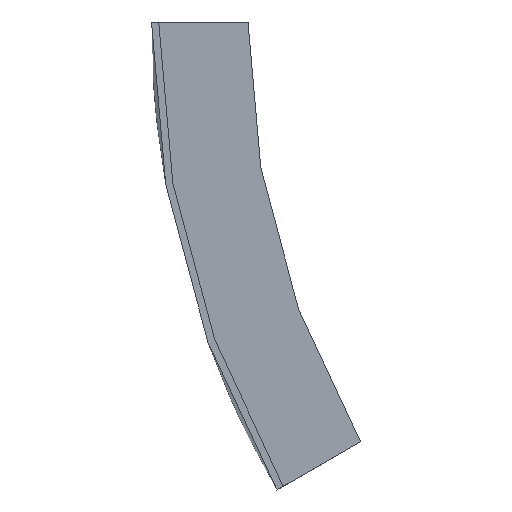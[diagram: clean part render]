
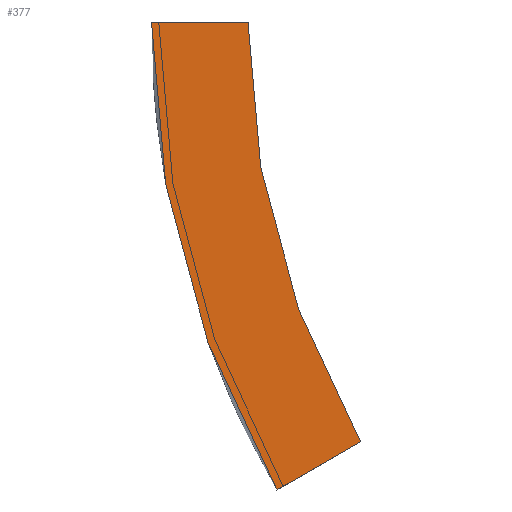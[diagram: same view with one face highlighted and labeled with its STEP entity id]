
A CAD part, left-side view. The second image highlights one B-rep face of the part: STEP entity #377.
In plain terms, the highlighted planar face has unit normal (-1, 0, 0).
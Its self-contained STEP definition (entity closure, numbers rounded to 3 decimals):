
#6 = DIRECTION ( 'NONE',  ( 0., 0., -1. ) ) ;
#10 = VECTOR ( 'NONE', #127, 1000. ) ;
#15 = LINE ( 'NONE', #435, #561 ) ;
#44 = DIRECTION ( 'NONE',  ( 1., 0., 0. ) ) ;
#49 = AXIS2_PLACEMENT_3D ( 'NONE', #372, #560, #6 ) ;
#66 = EDGE_LOOP ( 'NONE', ( #531, #438, #140, #387 ) ) ;
#71 = CARTESIAN_POINT ( 'NONE',  ( -303.5, -20., 0. ) ) ;
#76 = CARTESIAN_POINT ( 'NONE',  ( -303.5, -194., 0. ) ) ;
#78 = DIRECTION ( 'NONE',  ( -1., 0., 0. ) ) ;
#122 = EDGE_CURVE ( 'NONE', #340, #206, #15, .T. ) ;
#123 = CARTESIAN_POINT ( 'NONE',  ( -303.5, -43.312, -87. ) ) ;
#127 = DIRECTION ( 'NONE',  ( 0., 0.866, -0.5 ) ) ;
#138 = DIRECTION ( 'NONE',  ( 0., -1., 0. ) ) ;
#140 = ORIENTED_EDGE ( 'NONE', *, *, #365, .F. ) ;
#154 = DIRECTION ( 'NONE',  ( 0., 0., 1. ) ) ;
#155 = EDGE_CURVE ( 'NONE', #224, #529, #459, .T. ) ;
#206 = VERTEX_POINT ( 'NONE', #71 ) ;
#222 = CARTESIAN_POINT ( 'NONE',  ( -303.5, -194., 0. ) ) ;
#224 = VERTEX_POINT ( 'NONE', #123 ) ;
#226 = CARTESIAN_POINT ( 'NONE',  ( -303.5, -25.991, -97. ) ) ;
#228 = EDGE_CURVE ( 'NONE', #529, #340, #517, .T. ) ;
#261 = CARTESIAN_POINT ( 'NONE',  ( -303.5, -43.312, -87. ) ) ;
#262 = DIRECTION ( 'NONE',  ( 0., 0., 1. ) ) ;
#310 = FACE_OUTER_BOUND ( 'NONE', #66, .T. ) ;
#331 = AXIS2_PLACEMENT_3D ( 'NONE', #76, #78, #262 ) ;
#340 = VERTEX_POINT ( 'NONE', #603 ) ;
#365 = EDGE_CURVE ( 'NONE', #206, #224, #601, .T. ) ;
#372 = CARTESIAN_POINT ( 'NONE',  ( -303.5, -194., 0. ) ) ;
#377 = ADVANCED_FACE ( 'NONE', ( #310 ), #400, .T. ) ;
#387 = ORIENTED_EDGE ( 'NONE', *, *, #122, .F. ) ;
#392 = AXIS2_PLACEMENT_3D ( 'NONE', #222, #44, #154 ) ;
#400 = PLANE ( 'NONE',  #331 ) ;
#435 = CARTESIAN_POINT ( 'NONE',  ( -303.5, -20., 0. ) ) ;
#438 = ORIENTED_EDGE ( 'NONE', *, *, #155, .F. ) ;
#459 = LINE ( 'NONE', #261, #10 ) ;
#517 = CIRCLE ( 'NONE', #392, 194. ) ;
#529 = VERTEX_POINT ( 'NONE', #226 ) ;
#531 = ORIENTED_EDGE ( 'NONE', *, *, #228, .F. ) ;
#560 = DIRECTION ( 'NONE',  ( -1., 0., 0. ) ) ;
#561 = VECTOR ( 'NONE', #138, 1000. ) ;
#601 = CIRCLE ( 'NONE', #49, 174. ) ;
#603 = CARTESIAN_POINT ( 'NONE',  ( -303.5, 0., 0. ) ) ;
